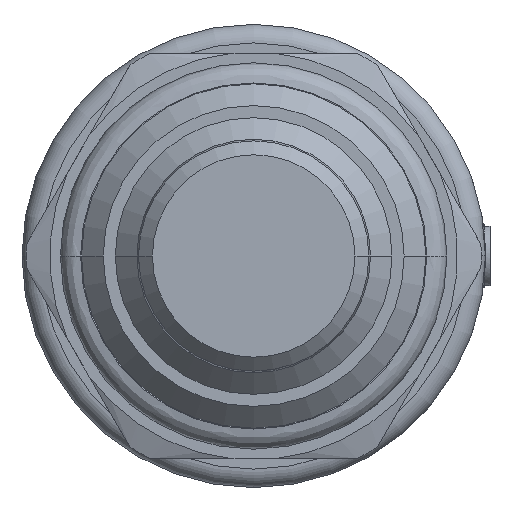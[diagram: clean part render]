
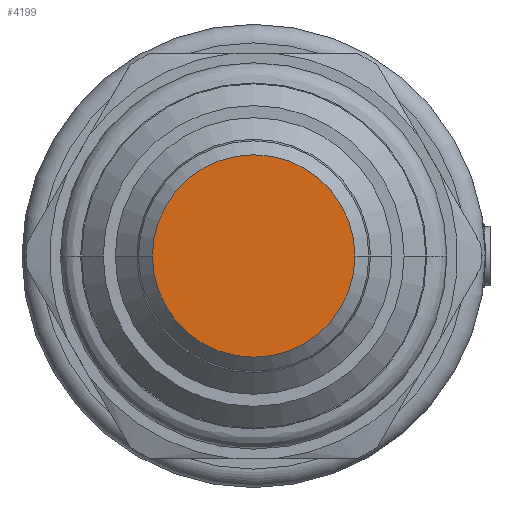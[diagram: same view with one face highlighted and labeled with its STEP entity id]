
A CAD part, front view. The second image highlights one B-rep face of the part: STEP entity #4199.
In plain terms, the highlighted planar face has unit normal (0, -1, 0).
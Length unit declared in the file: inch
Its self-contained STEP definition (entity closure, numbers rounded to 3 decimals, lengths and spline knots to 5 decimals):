
#1624=CARTESIAN_POINT('',(0.,-1.091,0.));
#1625=DIRECTION('',(0.,1.,0.));
#1626=DIRECTION('',(-1.,0.,0.));
#1627=AXIS2_PLACEMENT_3D('',#1624,#1625,#1626);
#1634=CARTESIAN_POINT('',(0.,-1.091,0.));
#1635=DIRECTION('',(0.,1.,0.));
#1636=DIRECTION('',(1.,0.,0.));
#1637=AXIS2_PLACEMENT_3D('',#1634,#1635,#1636);
#1711=CARTESIAN_POINT('',(-0.2185,-1.091,0.));
#1712=CARTESIAN_POINT('',(0.2185,-1.091,0.));
#1713=VERTEX_POINT('',#1711);
#1714=VERTEX_POINT('',#1712);
#4189=CARTESIAN_POINT('',(0.,-1.091,0.));
#4190=DIRECTION('',(0.,1.,0.));
#4191=DIRECTION('',(1.,0.,0.));
#4192=AXIS2_PLACEMENT_3D('',#4189,#4190,#4191);
#4193=PLANE('',#4192);
#4195=ORIENTED_EDGE('',*,*,#4194,.T.);
#4196=ORIENTED_EDGE('',*,*,#4179,.T.);
#4197=EDGE_LOOP('',(#4195,#4196));
#4198=FACE_OUTER_BOUND('',#4197,.F.);
#4199=ADVANCED_FACE('',(#4198),#4193,.F.);
#1628=CIRCLE('',#1627,0.2185);
#1638=CIRCLE('',#1637,0.2185);
#4179=EDGE_CURVE('',#1713,#1714,#1628,.T.);
#4194=EDGE_CURVE('',#1714,#1713,#1638,.T.);
